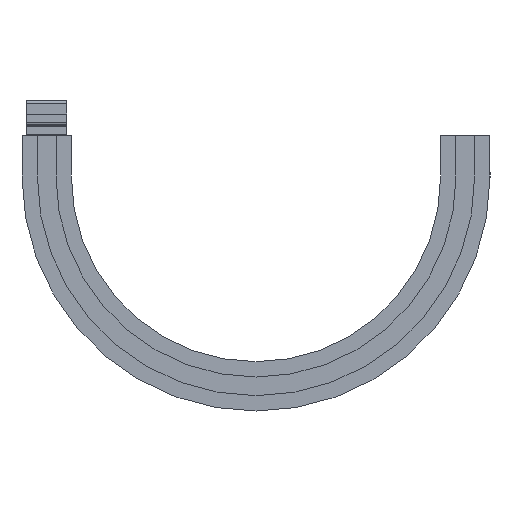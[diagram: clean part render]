
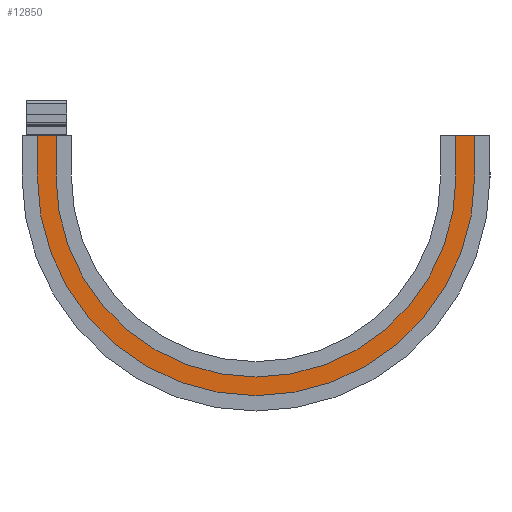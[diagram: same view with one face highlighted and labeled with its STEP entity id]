
A CAD part, front view. The second image highlights one B-rep face of the part: STEP entity #12850.
In plain terms, the highlighted planar face has unit normal (0, -1, 0).
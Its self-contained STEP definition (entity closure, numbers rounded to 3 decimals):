
#501 = CIRCLE ( 'NONE', #13930, 466. ) ;
#507 = CIRCLE ( 'NONE', #13927, 534. ) ;
#1667 = DIRECTION ( 'NONE',  ( 0., 0., -1. ) ) ;
#1668 = DIRECTION ( 'NONE',  ( 0., 1., 0. ) ) ;
#1670 = CARTESIAN_POINT ( 'NONE',  ( 364.906, -43.722, 195.035 ) ) ;
#1672 = DIRECTION ( 'NONE',  ( 0., 0., 1. ) ) ;
#1673 = CARTESIAN_POINT ( 'NONE',  ( -169.094, -43.722, 195.035 ) ) ;
#1687 = DIRECTION ( 'NONE',  ( 0., 0., -1. ) ) ;
#1689 = DIRECTION ( 'NONE',  ( 0., 1., 0. ) ) ;
#1691 = CARTESIAN_POINT ( 'NONE',  ( 364.906, -43.722, 195.035 ) ) ;
#1701 = DIRECTION ( 'NONE',  ( 0., 0., 1. ) ) ;
#1702 = CARTESIAN_POINT ( 'NONE',  ( -101.094, -43.722, 195.035 ) ) ;
#2295 = LINE ( 'NONE', #1702, #2303 ) ;
#2303 = VECTOR ( 'NONE', #1701, 1000. ) ;
#2344 = CIRCLE ( 'NONE', #14167, 466. ) ;
#2389 = LINE ( 'NONE', #1673, #2390 ) ;
#2390 = VECTOR ( 'NONE', #1672, 1000. ) ;
#2404 = CIRCLE ( 'NONE', #14169, 534. ) ;
#2443 = FACE_OUTER_BOUND ( 'NONE', #7101, .T. ) ;
#3462 = VERTEX_POINT ( 'NONE', #5141 ) ;
#3513 = VERTEX_POINT ( 'NONE', #5075 ) ;
#3518 = VERTEX_POINT ( 'NONE', #5069 ) ;
#3603 = VERTEX_POINT ( 'NONE', #4955 ) ;
#4192 = DIRECTION ( 'NONE',  ( 0., 0., -1. ) ) ;
#4196 = DIRECTION ( 'NONE',  ( 0., 1., 0. ) ) ;
#4200 = CARTESIAN_POINT ( 'NONE',  ( 364.906, -43.722, 195.035 ) ) ;
#4230 = DIRECTION ( 'NONE',  ( 0., 0., -1. ) ) ;
#4235 = DIRECTION ( 'NONE',  ( 0., 1., 0. ) ) ;
#4239 = CARTESIAN_POINT ( 'NONE',  ( 364.906, -43.722, 195.035 ) ) ;
#4955 = CARTESIAN_POINT ( 'NONE',  ( -169.094, -43.722, 195.035 ) ) ;
#5069 = CARTESIAN_POINT ( 'NONE',  ( 364.906, -43.722, -338.965 ) ) ;
#5075 = CARTESIAN_POINT ( 'NONE',  ( 364.906, -43.722, -270.965 ) ) ;
#5141 = CARTESIAN_POINT ( 'NONE',  ( 830.906, -43.722, 195.035 ) ) ;
#6375 = EDGE_CURVE ( 'NONE', #3518, #3603, #507, .T. ) ;
#6379 = EDGE_CURVE ( 'NONE', #3462, #3513, #501, .T. ) ;
#6740 = ORIENTED_EDGE ( 'NONE', *, *, #13760, .F. ) ;
#6742 = ORIENTED_EDGE ( 'NONE', *, *, #13761, .F. ) ;
#6743 = ORIENTED_EDGE ( 'NONE', *, *, #6379, .T. ) ;
#6744 = ORIENTED_EDGE ( 'NONE', *, *, #9331, .T. ) ;
#6746 = ORIENTED_EDGE ( 'NONE', *, *, #9327, .T. ) ;
#6747 = ORIENTED_EDGE ( 'NONE', *, *, #13759, .T. ) ;
#6748 = ORIENTED_EDGE ( 'NONE', *, *, #9336, .F. ) ;
#6750 = ORIENTED_EDGE ( 'NONE', *, *, #6375, .F. ) ;
#6751 = ORIENTED_EDGE ( 'NONE', *, *, #9337, .F. ) ;
#6752 = ORIENTED_EDGE ( 'NONE', *, *, #13758, .T. ) ;
#7101 = EDGE_LOOP ( 'NONE', ( #6740, #6742, #6743, #6744, #6746, #6747, #6748, #6750, #6751, #6752 ) ) ;
#9327 = EDGE_CURVE ( 'NONE', #10539, #10545, #2295, .T. ) ;
#9331 = EDGE_CURVE ( 'NONE', #3513, #10539, #2344, .T. ) ;
#9336 = EDGE_CURVE ( 'NONE', #3603, #10533, #2389, .T. ) ;
#9337 = EDGE_CURVE ( 'NONE', #10531, #3518, #2404, .T. ) ;
#9765 = PLANE ( 'NONE',  #14267 ) ;
#9766 = CARTESIAN_POINT ( 'NONE',  ( 830.906, -43.722, 195.035 ) ) ;
#9767 = DIRECTION ( 'NONE',  ( 0., -1., 0. ) ) ;
#9768 = DIRECTION ( 'NONE',  ( 1., 0., 0. ) ) ;
#10531 = VERTEX_POINT ( 'NONE', #11434 ) ;
#10533 = VERTEX_POINT ( 'NONE', #11436 ) ;
#10539 = VERTEX_POINT ( 'NONE', #11442 ) ;
#10545 = VERTEX_POINT ( 'NONE', #11448 ) ;
#10597 = VERTEX_POINT ( 'NONE', #11500 ) ;
#10602 = VERTEX_POINT ( 'NONE', #11505 ) ;
#11434 = CARTESIAN_POINT ( 'NONE',  ( 898.906, -43.722, 195.035 ) ) ;
#11436 = CARTESIAN_POINT ( 'NONE',  ( -169.094, -43.722, 295.035 ) ) ;
#11442 = CARTESIAN_POINT ( 'NONE',  ( -101.094, -43.722, 195.035 ) ) ;
#11448 = CARTESIAN_POINT ( 'NONE',  ( -101.094, -43.722, 295.035 ) ) ;
#11500 = CARTESIAN_POINT ( 'NONE',  ( 830.906, -43.722, 295.035 ) ) ;
#11505 = CARTESIAN_POINT ( 'NONE',  ( 898.906, -43.722, 295.035 ) ) ;
#12850 = ADVANCED_FACE ( 'NONE', ( #2443 ), #9765, .T. ) ;
#13758 = EDGE_CURVE ( 'NONE', #10531, #10602, #15441, .T. ) ;
#13759 = EDGE_CURVE ( 'NONE', #10545, #10533, #15443, .T. ) ;
#13760 = EDGE_CURVE ( 'NONE', #10597, #10602, #15445, .T. ) ;
#13761 = EDGE_CURVE ( 'NONE', #3462, #10597, #15447, .T. ) ;
#13927 = AXIS2_PLACEMENT_3D ( 'NONE', #4239, #4235, #4230 ) ;
#13930 = AXIS2_PLACEMENT_3D ( 'NONE', #4200, #4196, #4192 ) ;
#14167 = AXIS2_PLACEMENT_3D ( 'NONE', #1691, #1689, #1687 ) ;
#14169 = AXIS2_PLACEMENT_3D ( 'NONE', #1670, #1668, #1667 ) ;
#14267 = AXIS2_PLACEMENT_3D ( 'NONE', #9766, #9767, #9768 ) ;
#15101 = CARTESIAN_POINT ( 'NONE',  ( 898.906, -43.722, 195.035 ) ) ;
#15102 = DIRECTION ( 'NONE',  ( 0., 0., 1. ) ) ;
#15103 = CARTESIAN_POINT ( 'NONE',  ( -101.094, -43.722, 295.035 ) ) ;
#15104 = DIRECTION ( 'NONE',  ( -1., 0., 0. ) ) ;
#15105 = CARTESIAN_POINT ( 'NONE',  ( 830.906, -43.722, 295.035 ) ) ;
#15106 = DIRECTION ( 'NONE',  ( 1., 0., 0. ) ) ;
#15107 = CARTESIAN_POINT ( 'NONE',  ( 830.906, -43.722, 195.035 ) ) ;
#15108 = DIRECTION ( 'NONE',  ( 0., 0., 1. ) ) ;
#15441 = LINE ( 'NONE', #15101, #15442 ) ;
#15442 = VECTOR ( 'NONE', #15102, 1000. ) ;
#15443 = LINE ( 'NONE', #15103, #15444 ) ;
#15444 = VECTOR ( 'NONE', #15104, 1000. ) ;
#15445 = LINE ( 'NONE', #15105, #15446 ) ;
#15446 = VECTOR ( 'NONE', #15106, 1000. ) ;
#15447 = LINE ( 'NONE', #15107, #15448 ) ;
#15448 = VECTOR ( 'NONE', #15108, 1000. ) ;
